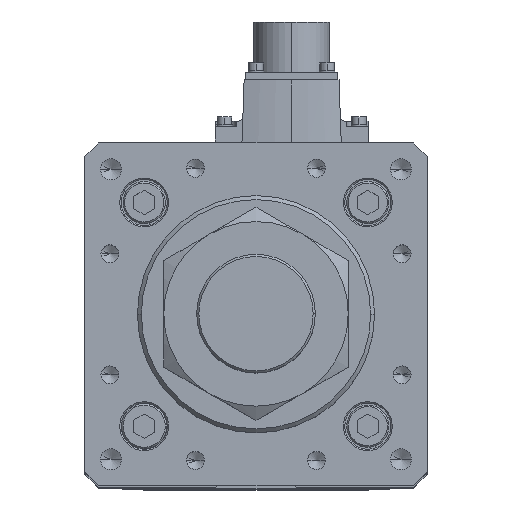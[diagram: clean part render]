
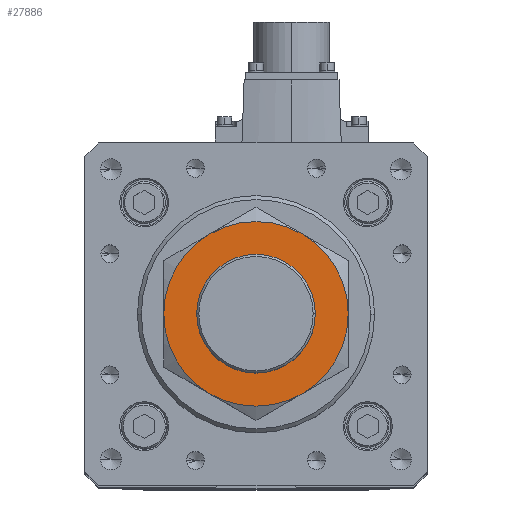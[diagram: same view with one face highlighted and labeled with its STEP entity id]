
A CAD part, top view. The second image highlights one B-rep face of the part: STEP entity #27886.
In plain terms, the highlighted planar face has unit normal (0, 0, 1).
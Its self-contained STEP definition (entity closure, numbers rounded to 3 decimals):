
#131 = DIRECTION ( 'NONE',  ( -1., 0., 0. ) ) ;
#528 = EDGE_CURVE ( 'NONE', #656, #17947, #2746, .T. ) ;
#656 = VERTEX_POINT ( 'NONE', #18770 ) ;
#1870 = CARTESIAN_POINT ( 'NONE',  ( 0., 0., 27. ) ) ;
#2219 = DIRECTION ( 'NONE',  ( -1., 0., 0. ) ) ;
#2746 = CIRCLE ( 'NONE', #27304, 35. ) ;
#3109 = ORIENTED_EDGE ( 'NONE', *, *, #23809, .F. ) ;
#3221 = CARTESIAN_POINT ( 'NONE',  ( 0., 0., 27. ) ) ;
#3874 = ORIENTED_EDGE ( 'NONE', *, *, #34702, .F. ) ;
#4508 = AXIS2_PLACEMENT_3D ( 'NONE', #1870, #7767, #28419 ) ;
#4812 = EDGE_LOOP ( 'NONE', ( #3874, #38188 ) ) ;
#6763 = EDGE_CURVE ( 'NONE', #25209, #36532, #38002, .T. ) ;
#7452 = EDGE_CURVE ( 'NONE', #33281, #16423, #29182, .T. ) ;
#7521 = CARTESIAN_POINT ( 'NONE',  ( -17.5, 30.311, 27. ) ) ;
#7767 = DIRECTION ( 'NONE',  ( 0., 0., -1. ) ) ;
#8500 = EDGE_LOOP ( 'NONE', ( #19190, #20184, #22836, #3109, #28702, #24764 ) ) ;
#9284 = DIRECTION ( 'NONE',  ( -1., 0., 0. ) ) ;
#9311 = EDGE_CURVE ( 'NONE', #17947, #35873, #19419, .T. ) ;
#9423 = DIRECTION ( 'NONE',  ( 0., 0., 1. ) ) ;
#10669 = EDGE_CURVE ( 'NONE', #16423, #656, #23526, .T. ) ;
#11019 = CIRCLE ( 'NONE', #4508, 35. ) ;
#11380 = DIRECTION ( 'NONE',  ( 1., 0., 0. ) ) ;
#11591 = CARTESIAN_POINT ( 'NONE',  ( -35., 0., 27. ) ) ;
#12497 = AXIS2_PLACEMENT_3D ( 'NONE', #21303, #24139, #24266 ) ;
#14189 = CARTESIAN_POINT ( 'NONE',  ( 17.5, 30.311, 27. ) ) ;
#14256 = EDGE_CURVE ( 'NONE', #35873, #35229, #11019, .T. ) ;
#15256 = AXIS2_PLACEMENT_3D ( 'NONE', #3221, #15430, #9284 ) ;
#15430 = DIRECTION ( 'NONE',  ( 0., 0., -1. ) ) ;
#15842 = AXIS2_PLACEMENT_3D ( 'NONE', #28937, #23375, #11380 ) ;
#16138 = FACE_OUTER_BOUND ( 'NONE', #8500, .T. ) ;
#16242 = CARTESIAN_POINT ( 'NONE',  ( 0., 0., 27. ) ) ;
#16423 = VERTEX_POINT ( 'NONE', #14189 ) ;
#16995 = DIRECTION ( 'NONE',  ( 0., 0., -1. ) ) ;
#17131 = AXIS2_PLACEMENT_3D ( 'NONE', #26558, #32109, #131 ) ;
#17947 = VERTEX_POINT ( 'NONE', #33517 ) ;
#18680 = CARTESIAN_POINT ( 'NONE',  ( 0., 0., 27. ) ) ;
#18770 = CARTESIAN_POINT ( 'NONE',  ( 35., 0., 27. ) ) ;
#19190 = ORIENTED_EDGE ( 'NONE', *, *, #528, .F. ) ;
#19234 = DIRECTION ( 'NONE',  ( -1., 0., 0. ) ) ;
#19419 = CIRCLE ( 'NONE', #12497, 35. ) ;
#20184 = ORIENTED_EDGE ( 'NONE', *, *, #10669, .F. ) ;
#20884 = CARTESIAN_POINT ( 'NONE',  ( 0., 0., 27. ) ) ;
#21303 = CARTESIAN_POINT ( 'NONE',  ( 0., 0., 27. ) ) ;
#22062 = DIRECTION ( 'NONE',  ( 0., 0., 1. ) ) ;
#22836 = ORIENTED_EDGE ( 'NONE', *, *, #7452, .F. ) ;
#23375 = DIRECTION ( 'NONE',  ( 0., 0., 1. ) ) ;
#23526 = CIRCLE ( 'NONE', #15256, 35. ) ;
#23809 = EDGE_CURVE ( 'NONE', #35229, #33281, #34586, .T. ) ;
#24004 = FACE_BOUND ( 'NONE', #4812, .T. ) ;
#24139 = DIRECTION ( 'NONE',  ( 0., 0., -1. ) ) ;
#24266 = DIRECTION ( 'NONE',  ( -1., 0., 0. ) ) ;
#24764 = ORIENTED_EDGE ( 'NONE', *, *, #9311, .F. ) ;
#25209 = VERTEX_POINT ( 'NONE', #27949 ) ;
#26558 = CARTESIAN_POINT ( 'NONE',  ( 0., 0., 27. ) ) ;
#27304 = AXIS2_PLACEMENT_3D ( 'NONE', #34587, #16995, #2219 ) ;
#27886 = ADVANCED_FACE ( 'NONE', ( #16138, #24004 ), #36388, .T. ) ;
#27949 = CARTESIAN_POINT ( 'NONE',  ( 22.5, 0., 27. ) ) ;
#28194 = AXIS2_PLACEMENT_3D ( 'NONE', #20884, #9423, #29952 ) ;
#28419 = DIRECTION ( 'NONE',  ( -1., 0., 0. ) ) ;
#28702 = ORIENTED_EDGE ( 'NONE', *, *, #14256, .F. ) ;
#28937 = CARTESIAN_POINT ( 'NONE',  ( 0., 0., 27. ) ) ;
#29182 = CIRCLE ( 'NONE', #32975, 35. ) ;
#29952 = DIRECTION ( 'NONE',  ( 1., 0., 0. ) ) ;
#30996 = DIRECTION ( 'NONE',  ( 0., 0., -1. ) ) ;
#32109 = DIRECTION ( 'NONE',  ( 0., 0., -1. ) ) ;
#32975 = AXIS2_PLACEMENT_3D ( 'NONE', #16242, #30996, #19234 ) ;
#33281 = VERTEX_POINT ( 'NONE', #7521 ) ;
#33517 = CARTESIAN_POINT ( 'NONE',  ( 17.5, -30.311, 27. ) ) ;
#33837 = AXIS2_PLACEMENT_3D ( 'NONE', #18680, #22062, #36784 ) ;
#34586 = CIRCLE ( 'NONE', #17131, 35. ) ;
#34587 = CARTESIAN_POINT ( 'NONE',  ( 0., 0., 27. ) ) ;
#34643 = CARTESIAN_POINT ( 'NONE',  ( -22.5, 0., 27. ) ) ;
#34702 = EDGE_CURVE ( 'NONE', #36532, #25209, #35300, .T. ) ;
#35229 = VERTEX_POINT ( 'NONE', #11591 ) ;
#35300 = CIRCLE ( 'NONE', #28194, 22.5 ) ;
#35873 = VERTEX_POINT ( 'NONE', #37594 ) ;
#36388 = PLANE ( 'NONE',  #33837 ) ;
#36532 = VERTEX_POINT ( 'NONE', #34643 ) ;
#36784 = DIRECTION ( 'NONE',  ( 1., 0., 0. ) ) ;
#37594 = CARTESIAN_POINT ( 'NONE',  ( -17.5, -30.311, 27. ) ) ;
#38002 = CIRCLE ( 'NONE', #15842, 22.5 ) ;
#38188 = ORIENTED_EDGE ( 'NONE', *, *, #6763, .F. ) ;
